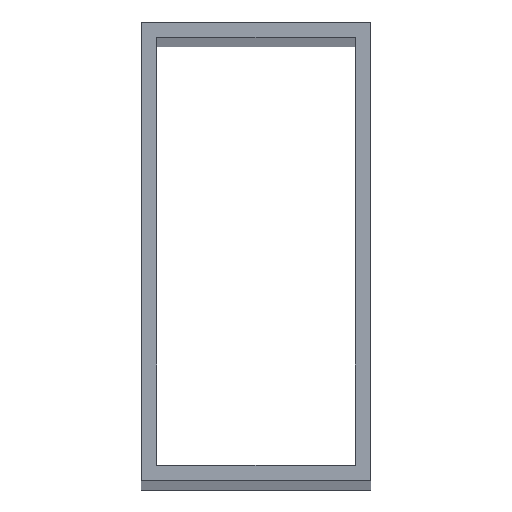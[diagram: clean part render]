
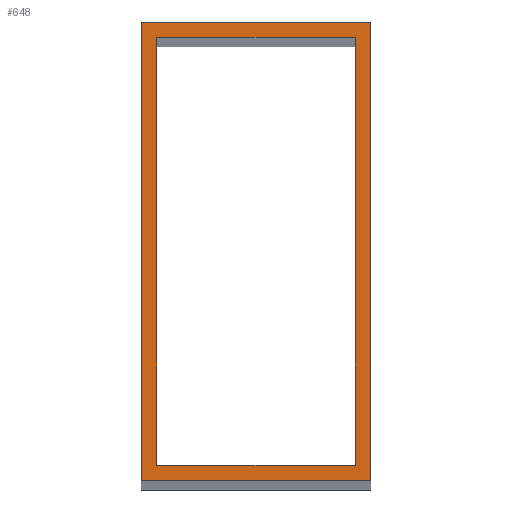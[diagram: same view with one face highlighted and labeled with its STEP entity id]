
A CAD part, top view. The second image highlights one B-rep face of the part: STEP entity #648.
In plain terms, the highlighted planar face has unit normal (0, 0, 1).
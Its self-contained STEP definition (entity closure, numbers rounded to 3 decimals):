
#24 = VERTEX_POINT('',#25);
#25 = CARTESIAN_POINT('',(-37.5,-75.,1780.));
#32 = PLANE('',#33);
#33 = AXIS2_PLACEMENT_3D('',#34,#35,#36);
#34 = CARTESIAN_POINT('',(-37.5,-75.,0.));
#35 = DIRECTION('',(0.,1.,0.));
#36 = DIRECTION('',(1.,0.,0.));
#44 = PLANE('',#45);
#45 = AXIS2_PLACEMENT_3D('',#46,#47,#48);
#46 = CARTESIAN_POINT('',(-37.5,75.,0.));
#47 = DIRECTION('',(1.,0.,-0.));
#48 = DIRECTION('',(0.,-1.,0.));
#56 = EDGE_CURVE('',#24,#57,#59,.T.);
#57 = VERTEX_POINT('',#58);
#58 = CARTESIAN_POINT('',(37.5,-75.,1780.));
#59 = SURFACE_CURVE('',#60,(#64,#71),.PCURVE_S1.);
#60 = LINE('',#61,#62);
#61 = CARTESIAN_POINT('',(-37.5,-75.,1780.));
#62 = VECTOR('',#63,1.);
#63 = DIRECTION('',(1.,0.,0.));
#64 = PCURVE('',#32,#65);
#65 = DEFINITIONAL_REPRESENTATION('',(#66),#70);
#66 = LINE('',#67,#68);
#67 = CARTESIAN_POINT('',(0.,-1780.));
#68 = VECTOR('',#69,1.);
#69 = DIRECTION('',(1.,0.));
#70 = ( GEOMETRIC_REPRESENTATION_CONTEXT(2) 
PARAMETRIC_REPRESENTATION_CONTEXT() REPRESENTATION_CONTEXT('2D SPACE',''
  ) );
#71 = PCURVE('',#72,#77);
#72 = PLANE('',#73);
#73 = AXIS2_PLACEMENT_3D('',#74,#75,#76);
#74 = CARTESIAN_POINT('',(0.,0.,1780.));
#75 = DIRECTION('',(0.,0.,1.));
#76 = DIRECTION('',(1.,0.,-0.));
#77 = DEFINITIONAL_REPRESENTATION('',(#78),#82);
#78 = LINE('',#79,#80);
#79 = CARTESIAN_POINT('',(-37.5,-75.));
#80 = VECTOR('',#81,1.);
#81 = DIRECTION('',(1.,0.));
#82 = ( GEOMETRIC_REPRESENTATION_CONTEXT(2) 
PARAMETRIC_REPRESENTATION_CONTEXT() REPRESENTATION_CONTEXT('2D SPACE',''
  ) );
#100 = PLANE('',#101);
#101 = AXIS2_PLACEMENT_3D('',#102,#103,#104);
#102 = CARTESIAN_POINT('',(37.5,-75.,0.));
#103 = DIRECTION('',(-1.,0.,0.));
#104 = DIRECTION('',(0.,1.,0.));
#142 = EDGE_CURVE('',#57,#143,#145,.T.);
#143 = VERTEX_POINT('',#144);
#144 = CARTESIAN_POINT('',(37.5,75.,1780.));
#145 = SURFACE_CURVE('',#146,(#150,#157),.PCURVE_S1.);
#146 = LINE('',#147,#148);
#147 = CARTESIAN_POINT('',(37.5,-75.,1780.));
#148 = VECTOR('',#149,1.);
#149 = DIRECTION('',(0.,1.,0.));
#150 = PCURVE('',#100,#151);
#151 = DEFINITIONAL_REPRESENTATION('',(#152),#156);
#152 = LINE('',#153,#154);
#153 = CARTESIAN_POINT('',(0.,-1780.));
#154 = VECTOR('',#155,1.);
#155 = DIRECTION('',(1.,0.));
#156 = ( GEOMETRIC_REPRESENTATION_CONTEXT(2) 
PARAMETRIC_REPRESENTATION_CONTEXT() REPRESENTATION_CONTEXT('2D SPACE',''
  ) );
#157 = PCURVE('',#72,#158);
#158 = DEFINITIONAL_REPRESENTATION('',(#159),#163);
#159 = LINE('',#160,#161);
#160 = CARTESIAN_POINT('',(37.5,-75.));
#161 = VECTOR('',#162,1.);
#162 = DIRECTION('',(0.,1.));
#163 = ( GEOMETRIC_REPRESENTATION_CONTEXT(2) 
PARAMETRIC_REPRESENTATION_CONTEXT() REPRESENTATION_CONTEXT('2D SPACE',''
  ) );
#181 = PLANE('',#182);
#182 = AXIS2_PLACEMENT_3D('',#183,#184,#185);
#183 = CARTESIAN_POINT('',(37.5,75.,0.));
#184 = DIRECTION('',(0.,-1.,0.));
#185 = DIRECTION('',(-1.,0.,0.));
#218 = EDGE_CURVE('',#143,#219,#221,.T.);
#219 = VERTEX_POINT('',#220);
#220 = CARTESIAN_POINT('',(-37.5,75.,1780.));
#221 = SURFACE_CURVE('',#222,(#226,#233),.PCURVE_S1.);
#222 = LINE('',#223,#224);
#223 = CARTESIAN_POINT('',(37.5,75.,1780.));
#224 = VECTOR('',#225,1.);
#225 = DIRECTION('',(-1.,0.,0.));
#226 = PCURVE('',#181,#227);
#227 = DEFINITIONAL_REPRESENTATION('',(#228),#232);
#228 = LINE('',#229,#230);
#229 = CARTESIAN_POINT('',(0.,-1780.));
#230 = VECTOR('',#231,1.);
#231 = DIRECTION('',(1.,0.));
#232 = ( GEOMETRIC_REPRESENTATION_CONTEXT(2) 
PARAMETRIC_REPRESENTATION_CONTEXT() REPRESENTATION_CONTEXT('2D SPACE',''
  ) );
#233 = PCURVE('',#72,#234);
#234 = DEFINITIONAL_REPRESENTATION('',(#235),#239);
#235 = LINE('',#236,#237);
#236 = CARTESIAN_POINT('',(37.5,75.));
#237 = VECTOR('',#238,1.);
#238 = DIRECTION('',(-1.,0.));
#239 = ( GEOMETRIC_REPRESENTATION_CONTEXT(2) 
PARAMETRIC_REPRESENTATION_CONTEXT() REPRESENTATION_CONTEXT('2D SPACE',''
  ) );
#289 = EDGE_CURVE('',#219,#24,#290,.T.);
#290 = SURFACE_CURVE('',#291,(#295,#302),.PCURVE_S1.);
#291 = LINE('',#292,#293);
#292 = CARTESIAN_POINT('',(-37.5,75.,1780.));
#293 = VECTOR('',#294,1.);
#294 = DIRECTION('',(0.,-1.,0.));
#295 = PCURVE('',#44,#296);
#296 = DEFINITIONAL_REPRESENTATION('',(#297),#301);
#297 = LINE('',#298,#299);
#298 = CARTESIAN_POINT('',(0.,-1780.));
#299 = VECTOR('',#300,1.);
#300 = DIRECTION('',(1.,0.));
#301 = ( GEOMETRIC_REPRESENTATION_CONTEXT(2) 
PARAMETRIC_REPRESENTATION_CONTEXT() REPRESENTATION_CONTEXT('2D SPACE',''
  ) );
#302 = PCURVE('',#72,#303);
#303 = DEFINITIONAL_REPRESENTATION('',(#304),#308);
#304 = LINE('',#305,#306);
#305 = CARTESIAN_POINT('',(-37.5,75.));
#306 = VECTOR('',#307,1.);
#307 = DIRECTION('',(0.,-1.));
#308 = ( GEOMETRIC_REPRESENTATION_CONTEXT(2) 
PARAMETRIC_REPRESENTATION_CONTEXT() REPRESENTATION_CONTEXT('2D SPACE',''
  ) );
#338 = VERTEX_POINT('',#339);
#339 = CARTESIAN_POINT('',(-32.5,-70.,1780.));
#346 = PLANE('',#347);
#347 = AXIS2_PLACEMENT_3D('',#348,#349,#350);
#348 = CARTESIAN_POINT('',(-32.5,-70.,0.));
#349 = DIRECTION('',(0.,1.,0.));
#350 = DIRECTION('',(1.,0.,0.));
#358 = PLANE('',#359);
#359 = AXIS2_PLACEMENT_3D('',#360,#361,#362);
#360 = CARTESIAN_POINT('',(-32.5,70.,0.));
#361 = DIRECTION('',(1.,0.,-0.));
#362 = DIRECTION('',(0.,-1.,0.));
#370 = EDGE_CURVE('',#338,#371,#373,.T.);
#371 = VERTEX_POINT('',#372);
#372 = CARTESIAN_POINT('',(32.5,-70.,1780.));
#373 = SURFACE_CURVE('',#374,(#378,#385),.PCURVE_S1.);
#374 = LINE('',#375,#376);
#375 = CARTESIAN_POINT('',(-32.5,-70.,1780.));
#376 = VECTOR('',#377,1.);
#377 = DIRECTION('',(1.,0.,0.));
#378 = PCURVE('',#346,#379);
#379 = DEFINITIONAL_REPRESENTATION('',(#380),#384);
#380 = LINE('',#381,#382);
#381 = CARTESIAN_POINT('',(0.,-1780.));
#382 = VECTOR('',#383,1.);
#383 = DIRECTION('',(1.,0.));
#384 = ( GEOMETRIC_REPRESENTATION_CONTEXT(2) 
PARAMETRIC_REPRESENTATION_CONTEXT() REPRESENTATION_CONTEXT('2D SPACE',''
  ) );
#385 = PCURVE('',#72,#386);
#386 = DEFINITIONAL_REPRESENTATION('',(#387),#391);
#387 = LINE('',#388,#389);
#388 = CARTESIAN_POINT('',(-32.5,-70.));
#389 = VECTOR('',#390,1.);
#390 = DIRECTION('',(1.,0.));
#391 = ( GEOMETRIC_REPRESENTATION_CONTEXT(2) 
PARAMETRIC_REPRESENTATION_CONTEXT() REPRESENTATION_CONTEXT('2D SPACE',''
  ) );
#409 = PLANE('',#410);
#410 = AXIS2_PLACEMENT_3D('',#411,#412,#413);
#411 = CARTESIAN_POINT('',(32.5,-70.,0.));
#412 = DIRECTION('',(-1.,0.,0.));
#413 = DIRECTION('',(0.,1.,0.));
#446 = EDGE_CURVE('',#371,#447,#449,.T.);
#447 = VERTEX_POINT('',#448);
#448 = CARTESIAN_POINT('',(32.5,70.,1780.));
#449 = SURFACE_CURVE('',#450,(#454,#461),.PCURVE_S1.);
#450 = LINE('',#451,#452);
#451 = CARTESIAN_POINT('',(32.5,-70.,1780.));
#452 = VECTOR('',#453,1.);
#453 = DIRECTION('',(0.,1.,0.));
#454 = PCURVE('',#409,#455);
#455 = DEFINITIONAL_REPRESENTATION('',(#456),#460);
#456 = LINE('',#457,#458);
#457 = CARTESIAN_POINT('',(0.,-1780.));
#458 = VECTOR('',#459,1.);
#459 = DIRECTION('',(1.,0.));
#460 = ( GEOMETRIC_REPRESENTATION_CONTEXT(2) 
PARAMETRIC_REPRESENTATION_CONTEXT() REPRESENTATION_CONTEXT('2D SPACE',''
  ) );
#461 = PCURVE('',#72,#462);
#462 = DEFINITIONAL_REPRESENTATION('',(#463),#467);
#463 = LINE('',#464,#465);
#464 = CARTESIAN_POINT('',(32.5,-70.));
#465 = VECTOR('',#466,1.);
#466 = DIRECTION('',(0.,1.));
#467 = ( GEOMETRIC_REPRESENTATION_CONTEXT(2) 
PARAMETRIC_REPRESENTATION_CONTEXT() REPRESENTATION_CONTEXT('2D SPACE',''
  ) );
#485 = PLANE('',#486);
#486 = AXIS2_PLACEMENT_3D('',#487,#488,#489);
#487 = CARTESIAN_POINT('',(32.5,70.,0.));
#488 = DIRECTION('',(0.,-1.,0.));
#489 = DIRECTION('',(-1.,0.,0.));
#522 = EDGE_CURVE('',#447,#523,#525,.T.);
#523 = VERTEX_POINT('',#524);
#524 = CARTESIAN_POINT('',(-32.5,70.,1780.));
#525 = SURFACE_CURVE('',#526,(#530,#537),.PCURVE_S1.);
#526 = LINE('',#527,#528);
#527 = CARTESIAN_POINT('',(32.5,70.,1780.));
#528 = VECTOR('',#529,1.);
#529 = DIRECTION('',(-1.,0.,0.));
#530 = PCURVE('',#485,#531);
#531 = DEFINITIONAL_REPRESENTATION('',(#532),#536);
#532 = LINE('',#533,#534);
#533 = CARTESIAN_POINT('',(0.,-1780.));
#534 = VECTOR('',#535,1.);
#535 = DIRECTION('',(1.,0.));
#536 = ( GEOMETRIC_REPRESENTATION_CONTEXT(2) 
PARAMETRIC_REPRESENTATION_CONTEXT() REPRESENTATION_CONTEXT('2D SPACE',''
  ) );
#537 = PCURVE('',#72,#538);
#538 = DEFINITIONAL_REPRESENTATION('',(#539),#543);
#539 = LINE('',#540,#541);
#540 = CARTESIAN_POINT('',(32.5,70.));
#541 = VECTOR('',#542,1.);
#542 = DIRECTION('',(-1.,0.));
#543 = ( GEOMETRIC_REPRESENTATION_CONTEXT(2) 
PARAMETRIC_REPRESENTATION_CONTEXT() REPRESENTATION_CONTEXT('2D SPACE',''
  ) );
#593 = EDGE_CURVE('',#523,#338,#594,.T.);
#594 = SURFACE_CURVE('',#595,(#599,#606),.PCURVE_S1.);
#595 = LINE('',#596,#597);
#596 = CARTESIAN_POINT('',(-32.5,70.,1780.));
#597 = VECTOR('',#598,1.);
#598 = DIRECTION('',(0.,-1.,0.));
#599 = PCURVE('',#358,#600);
#600 = DEFINITIONAL_REPRESENTATION('',(#601),#605);
#601 = LINE('',#602,#603);
#602 = CARTESIAN_POINT('',(0.,-1780.));
#603 = VECTOR('',#604,1.);
#604 = DIRECTION('',(1.,0.));
#605 = ( GEOMETRIC_REPRESENTATION_CONTEXT(2) 
PARAMETRIC_REPRESENTATION_CONTEXT() REPRESENTATION_CONTEXT('2D SPACE',''
  ) );
#606 = PCURVE('',#72,#607);
#607 = DEFINITIONAL_REPRESENTATION('',(#608),#612);
#608 = LINE('',#609,#610);
#609 = CARTESIAN_POINT('',(-32.5,70.));
#610 = VECTOR('',#611,1.);
#611 = DIRECTION('',(0.,-1.));
#612 = ( GEOMETRIC_REPRESENTATION_CONTEXT(2) 
PARAMETRIC_REPRESENTATION_CONTEXT() REPRESENTATION_CONTEXT('2D SPACE',''
  ) );
#648 = ADVANCED_FACE('',(#649,#655),#72,.T.);
#649 = FACE_BOUND('',#650,.T.);
#650 = EDGE_LOOP('',(#651,#652,#653,#654));
#651 = ORIENTED_EDGE('',*,*,#56,.T.);
#652 = ORIENTED_EDGE('',*,*,#142,.T.);
#653 = ORIENTED_EDGE('',*,*,#218,.T.);
#654 = ORIENTED_EDGE('',*,*,#289,.T.);
#655 = FACE_BOUND('',#656,.F.);
#656 = EDGE_LOOP('',(#657,#658,#659,#660));
#657 = ORIENTED_EDGE('',*,*,#370,.T.);
#658 = ORIENTED_EDGE('',*,*,#446,.T.);
#659 = ORIENTED_EDGE('',*,*,#522,.T.);
#660 = ORIENTED_EDGE('',*,*,#593,.T.);
